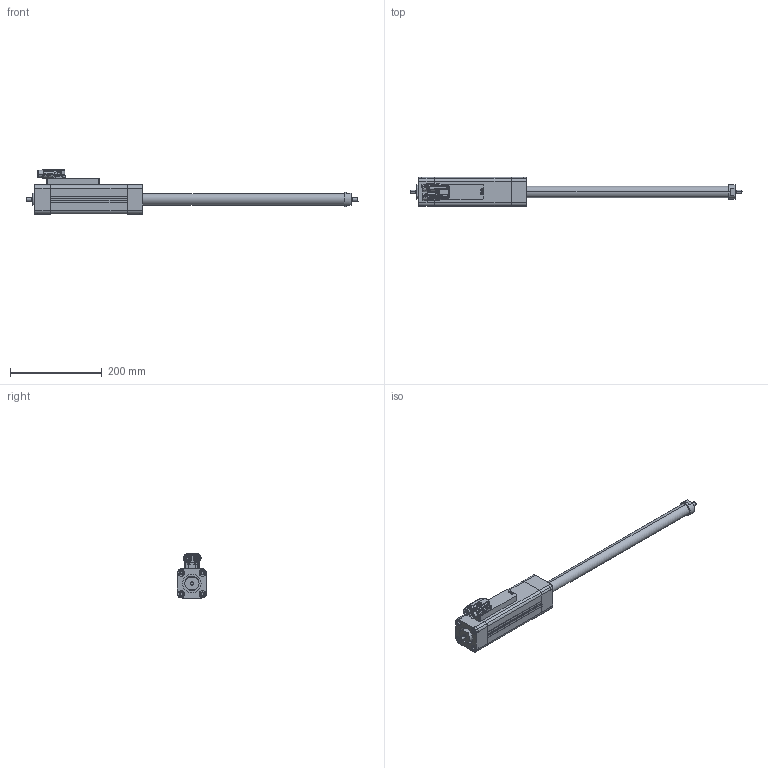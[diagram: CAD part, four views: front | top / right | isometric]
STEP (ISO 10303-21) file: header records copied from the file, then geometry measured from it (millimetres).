
FILE_DESCRIPTION(('STEP AP214'),'1');
FILE_NAME('C:/Users/Autocad/Desktop/ETT050S2CSNN0450C.stp','2014-07-01T07:49:07',(' '),(' '),'Spatial InterOp 3D',' ',' ');
FILE_SCHEMA(('automotive_design'));
Length unit declared in the file: millimetre
Products named in the file (19): ETT050S2CSNN0450C; ETH050 2 finto; TAPPO NORMALE; TAPPO; Scatola; Vite M3 lunga; Connettore doppio originale; Vite M3scheda -tappo; cuscinetto; viti parker; riempitivo; Slider MM
Assembly tree (28 placements, depth 2):
  ETT050S2CSNN0450C
    ETH050 2 finto
    TAPPO NORMALE
    TAPPO
    Scatola
    Vite M3 lunga  x4
    Connettore doppio originale
    Vite M3scheda -tappo  x4
    cuscinetto  x2
    viti parker
    viti parker
    viti parker
    viti parker
    viti parker
    viti parker
    viti parker
    viti parker
    riempitivo  x4
    Slider MM
Bounding box: 725 x 63.85 x 96.95 mm (x, y, z)
Volume: 999717.5 mm3; surface area: 286120.4 mm2
Topology: 27 solids, 1831 shells, 2435 faces, 10681 edges, 10130 vertices
Faces by surface type: cylinder 1001, plane 698, bspline 283, torus 253, cone 91, extrusion 68, sphere 41
Entity records: 151133 total; most frequent: CARTESIAN_POINT 60818, DIRECTION 15144, ORIENTED_EDGE 10643, EDGE_CURVE 9787, VERTEX_POINT 9504, AXIS2_PLACEMENT_3D 5908, CIRCLE 3809, VECTOR 3328
